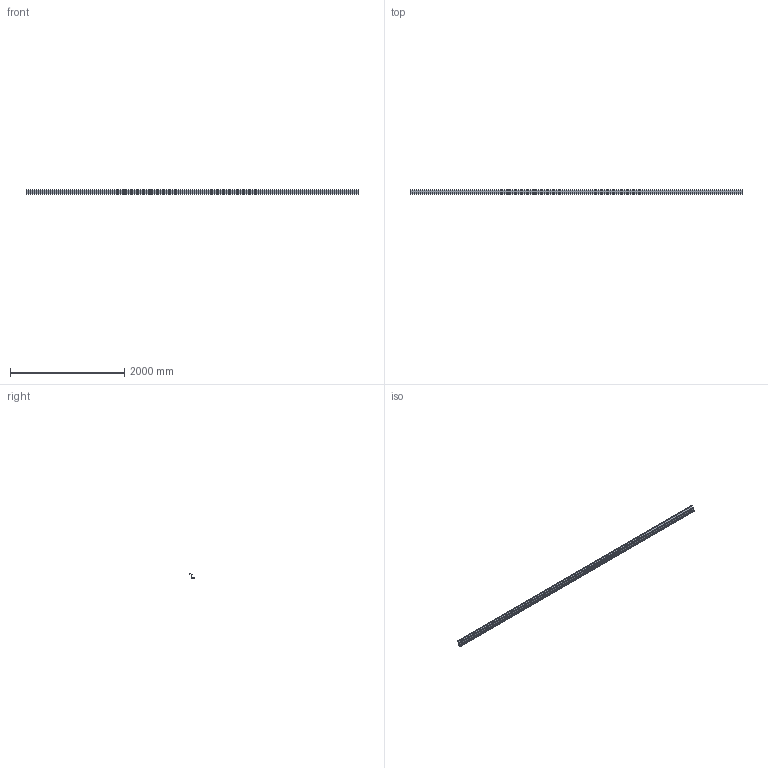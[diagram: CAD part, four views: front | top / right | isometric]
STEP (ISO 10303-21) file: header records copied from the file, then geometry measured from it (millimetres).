
FILE_DESCRIPTION(('STEP AP242'),'1');
FILE_NAME('OPO_51.047.63.stp','2026-02-23T17:25:55',(' '),(' '),'Spatial InterOp 3D',' ',' ');
FILE_SCHEMA(('AP242_MANAGED_MODEL_BASED_3D_ENGINEERING_MIM_LF {1 0 10303 442 1 1 4}'));
Length unit declared in the file: millimetre
Products named in the file (1): 1
Bounding box: 5800 x 73 x 86 mm (x, y, z)
Volume: 2285161.8 mm3; surface area: 2450403.5 mm2
Topology: 1 solids, 1 shells, 102 faces, 286 edges, 190 vertices
Faces by surface type: plane 82, cylinder 20
Entity records: 4086 total; most frequent: CARTESIAN_POINT 579, ORIENTED_EDGE 572, DIRECTION 532, EDGE_CURVE 286, LINE 246, VECTOR 246, VERTEX_POINT 190, AXIS2_PLACEMENT_3D 143
